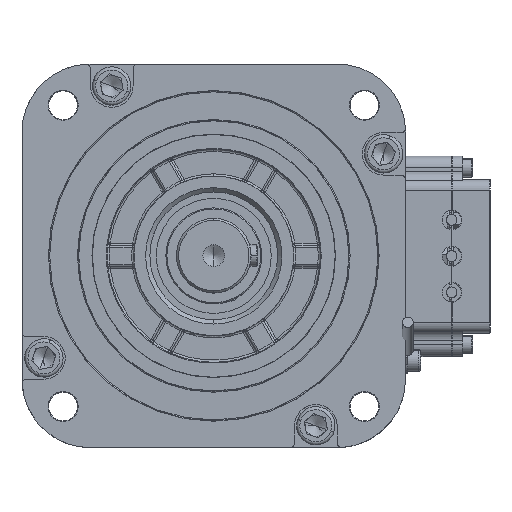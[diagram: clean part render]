
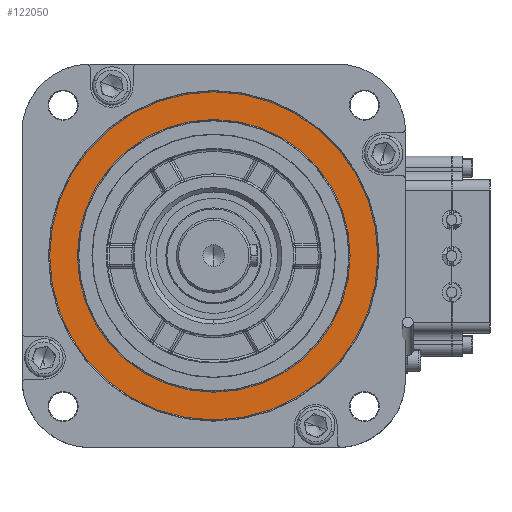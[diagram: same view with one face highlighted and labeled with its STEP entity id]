
A CAD part, top view. The second image highlights one B-rep face of the part: STEP entity #122050.
In plain terms, the highlighted planar face has unit normal (0, 0, 1).
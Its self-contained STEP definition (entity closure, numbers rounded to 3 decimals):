
#2202 = CARTESIAN_POINT ( 'NONE',  ( -29.994, -77., 56.883 ) ) ;
#5773 = AXIS2_PLACEMENT_3D ( 'NONE', #58827, #78241, #88994 ) ;
#6291 = DIRECTION ( 'NONE',  ( 0., 1., 0. ) ) ;
#8094 = DIRECTION ( 'NONE',  ( 0., 1., 0. ) ) ;
#12967 = PLANE ( 'NONE',  #5773 ) ;
#19193 = EDGE_LOOP ( 'NONE', ( #32361, #136298 ) ) ;
#21656 = CARTESIAN_POINT ( 'NONE',  ( -29.994, -64., 56.883 ) ) ;
#24235 = DIRECTION ( 'NONE',  ( 0., 0., 1. ) ) ;
#25770 = CIRCLE ( 'NONE', #41822, 64. ) ;
#32361 = ORIENTED_EDGE ( 'NONE', *, *, #81347, .T. ) ;
#36479 = ORIENTED_EDGE ( 'NONE', *, *, #98165, .T. ) ;
#37310 = FACE_BOUND ( 'NONE', #63924, .T. ) ;
#38338 = VERTEX_POINT ( 'NONE', #2202 ) ;
#41822 = AXIS2_PLACEMENT_3D ( 'NONE', #131910, #45070, #110420 ) ;
#42283 = VERTEX_POINT ( 'NONE', #93653 ) ;
#45070 = DIRECTION ( 'NONE',  ( 0., 0., -1. ) ) ;
#46437 = CARTESIAN_POINT ( 'NONE',  ( -29.994, 0., 56.883 ) ) ;
#46641 = CARTESIAN_POINT ( 'NONE',  ( -29.994, 0., 56.883 ) ) ;
#58827 = CARTESIAN_POINT ( 'NONE',  ( 47.506, 0., 56.883 ) ) ;
#62585 = CARTESIAN_POINT ( 'NONE',  ( -29.994, 0., 56.883 ) ) ;
#63924 = EDGE_LOOP ( 'NONE', ( #36479, #69602 ) ) ;
#66343 = VERTEX_POINT ( 'NONE', #88537 ) ;
#68715 = DIRECTION ( 'NONE',  ( 0., 1., 0. ) ) ;
#69602 = ORIENTED_EDGE ( 'NONE', *, *, #141457, .T. ) ;
#78241 = DIRECTION ( 'NONE',  ( 0., 0., -1. ) ) ;
#80393 = FACE_OUTER_BOUND ( 'NONE', #19193, .T. ) ;
#81248 = AXIS2_PLACEMENT_3D ( 'NONE', #46641, #134900, #6291 ) ;
#81347 = EDGE_CURVE ( 'NONE', #66343, #38338, #130852, .T. ) ;
#83374 = EDGE_CURVE ( 'NONE', #38338, #66343, #103849, .T. ) ;
#83595 = CIRCLE ( 'NONE', #81248, 64. ) ;
#87822 = AXIS2_PLACEMENT_3D ( 'NONE', #62585, #106388, #8094 ) ;
#88537 = CARTESIAN_POINT ( 'NONE',  ( -29.994, 77., 56.883 ) ) ;
#88994 = DIRECTION ( 'NONE',  ( 0., -1., 0. ) ) ;
#90153 = VERTEX_POINT ( 'NONE', #21656 ) ;
#93653 = CARTESIAN_POINT ( 'NONE',  ( -29.994, 64., 56.883 ) ) ;
#98165 = EDGE_CURVE ( 'NONE', #42283, #90153, #83595, .T. ) ;
#103849 = CIRCLE ( 'NONE', #87822, 77. ) ;
#106388 = DIRECTION ( 'NONE',  ( 0., 0., 1. ) ) ;
#110420 = DIRECTION ( 'NONE',  ( 0., 1., 0. ) ) ;
#122050 = ADVANCED_FACE ( 'NONE', ( #37310, #80393 ), #12967, .F. ) ;
#130852 = CIRCLE ( 'NONE', #137734, 77. ) ;
#131910 = CARTESIAN_POINT ( 'NONE',  ( -29.994, 0., 56.883 ) ) ;
#134900 = DIRECTION ( 'NONE',  ( 0., 0., -1. ) ) ;
#136298 = ORIENTED_EDGE ( 'NONE', *, *, #83374, .T. ) ;
#137734 = AXIS2_PLACEMENT_3D ( 'NONE', #46437, #24235, #68715 ) ;
#141457 = EDGE_CURVE ( 'NONE', #90153, #42283, #25770, .T. ) ;
